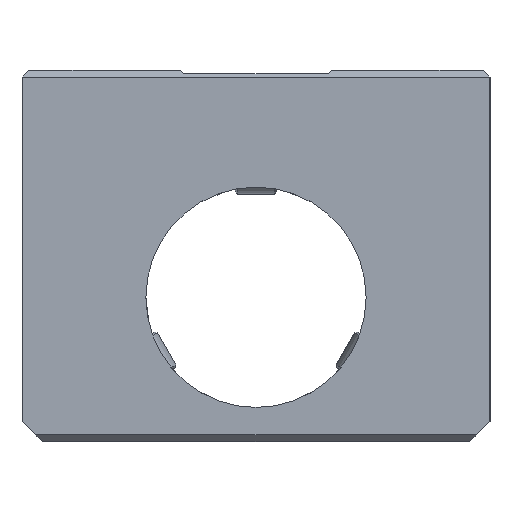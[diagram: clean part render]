
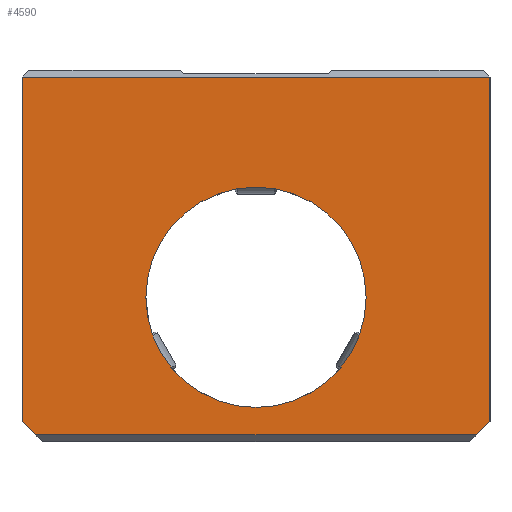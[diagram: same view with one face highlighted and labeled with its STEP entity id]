
A CAD part, left-side view. The second image highlights one B-rep face of the part: STEP entity #4590.
In plain terms, the highlighted planar face has unit normal (-1, 0, 0).
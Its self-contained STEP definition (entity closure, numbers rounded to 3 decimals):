
#3659=CARTESIAN_POINT('',(-45.0,-34.0,32.0));
#3660=VERTEX_POINT('',#3659);
#3669=CARTESIAN_POINT('',(-45.0,-34.0,-18.));
#3670=VERTEX_POINT('',#3669);
#3671=CARTESIAN_POINT('',(-45.0,-34.0,32.0));
#3672=DIRECTION('',(0.0,0.0,-1.0));
#3673=VECTOR('',#3672,50.);
#3674=LINE('',#3671,#3673);
#3675=EDGE_CURVE('',#3660,#3670,#3674,.T.);
#4383=CARTESIAN_POINT('',(-45.0,34.0,32.0));
#4384=VERTEX_POINT('',#4383);
#4391=CARTESIAN_POINT('',(-45.0,34.0,32.0));
#4392=DIRECTION('',(0.0,-1.0,0.0));
#4393=VECTOR('',#4392,68.0);
#4394=LINE('',#4391,#4393);
#4395=EDGE_CURVE('',#4384,#3660,#4394,.T.);
#4512=CARTESIAN_POINT('',(-45.0,-32.,-20.));
#4513=VERTEX_POINT('',#4512);
#4514=CARTESIAN_POINT('',(-45.0,-34.0,-18.));
#4515=DIRECTION('',(0.0,0.707,-0.707));
#4516=VECTOR('',#4515,2.828);
#4517=LINE('',#4514,#4516);
#4518=EDGE_CURVE('',#3670,#4513,#4517,.T.);
#4535=CARTESIAN_POINT('',(-45.0,32.,-20.));
#4536=VERTEX_POINT('',#4535);
#4545=CARTESIAN_POINT('',(-45.0,-32.,-20.));
#4546=DIRECTION('',(0.0,1.0,0.0));
#4547=VECTOR('',#4546,64.);
#4548=LINE('',#4545,#4547);
#4549=EDGE_CURVE('',#4513,#4536,#4548,.T.);
#4554=CARTESIAN_POINT('',(-45.0,-22.5,32.75));
#4555=DIRECTION('',(1.0,0.0,0.0));
#4556=DIRECTION('',(0.0,0.0,-1.0));
#4557=AXIS2_PLACEMENT_3D('',#4554,#4555,#4556);
#4558=PLANE('',#4557);
#4559=ORIENTED_EDGE('',*,*,#4549,.F.);
#4560=ORIENTED_EDGE('',*,*,#4518,.F.);
#4561=ORIENTED_EDGE('',*,*,#3675,.F.);
#4562=ORIENTED_EDGE('',*,*,#4395,.F.);
#4563=CARTESIAN_POINT('',(-45.0,34.0,-18.));
#4564=VERTEX_POINT('',#4563);
#4565=CARTESIAN_POINT('',(-45.0,34.0,-18.));
#4566=DIRECTION('',(0.0,0.0,1.0));
#4567=VECTOR('',#4566,50.);
#4568=LINE('',#4565,#4567);
#4569=EDGE_CURVE('',#4564,#4384,#4568,.T.);
#4570=ORIENTED_EDGE('',*,*,#4569,.F.);
#4571=CARTESIAN_POINT('',(-45.0,32.,-20.));
#4572=DIRECTION('',(0.0,0.707,0.707));
#4573=VECTOR('',#4572,2.828);
#4574=LINE('',#4571,#4573);
#4575=EDGE_CURVE('',#4536,#4564,#4574,.T.);
#4576=ORIENTED_EDGE('',*,*,#4575,.F.);
#4577=EDGE_LOOP('',(#4559,#4560,#4561,#4562,#4570,#4576));
#4578=FACE_OUTER_BOUND('',#4577,.T.);
#4579=CARTESIAN_POINT('',(-45.0,16.0,0.));
#4580=VERTEX_POINT('',#4579);
#4581=CARTESIAN_POINT('',(-45.0,0.0,0.0));
#4582=DIRECTION('',(1.0,0.0,0.0));
#4583=DIRECTION('',(0.0,-1.0,0.0));
#4584=AXIS2_PLACEMENT_3D('',#4581,#4582,#4583);
#4585=CIRCLE('',#4584,16.0);
#4586=EDGE_CURVE('',#4580,#4580,#4585,.T.);
#4587=ORIENTED_EDGE('',*,*,#4586,.T.);
#4588=EDGE_LOOP('',(#4587));
#4589=FACE_BOUND('',#4588,.T.);
#4590=ADVANCED_FACE('',(#4578,#4589),#4558,.F.);
